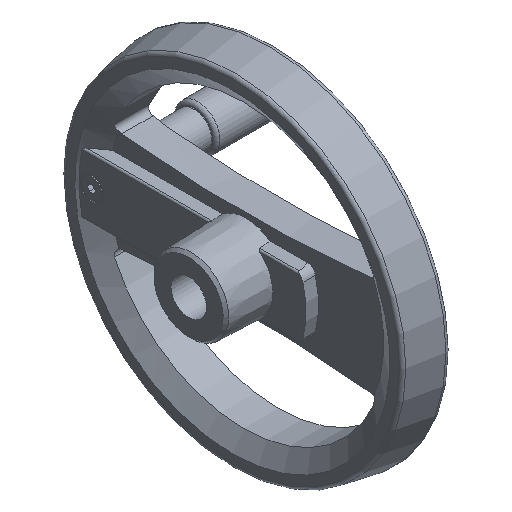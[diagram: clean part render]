
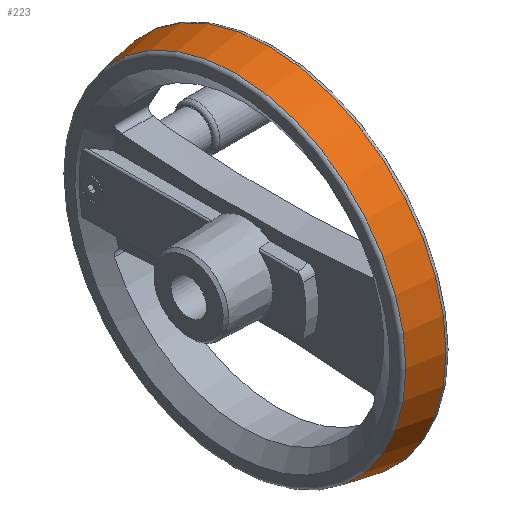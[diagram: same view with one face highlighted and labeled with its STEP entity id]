
A CAD part, isometric view. The second image highlights one B-rep face of the part: STEP entity #223.
In plain terms, the highlighted conical face has half-angle 9.986 degrees and reference radius 96.36 mm.
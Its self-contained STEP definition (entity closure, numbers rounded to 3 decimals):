
#223 = ADVANCED_FACE( '', ( #394, #395 ), #396, .T. );
#394 = FACE_OUTER_BOUND( '', #641, .T. );
#395 = FACE_BOUND( '', #642, .T. );
#396 = CONICAL_SURFACE( '', #643, 96.36, 0.174 );
#641 = EDGE_LOOP( '', ( #1162 ) );
#642 = EDGE_LOOP( '', ( #1163 ) );
#643 = AXIS2_PLACEMENT_3D( '', #1164, #1165, #1166 );
#1162 = ORIENTED_EDGE( '', *, *, #1667, .F. );
#1163 = ORIENTED_EDGE( '', *, *, #1668, .T. );
#1164 = CARTESIAN_POINT( '', ( 26.353, 0., 0. ) );
#1165 = DIRECTION( '', ( 1., 0., 0. ) );
#1166 = DIRECTION( '', ( 0., 0., -1. ) );
#1667 = EDGE_CURVE( '', #2003, #2003, #2004, .T. );
#1668 = EDGE_CURVE( '', #2005, #2005, #2006, .T. );
#2003 = VERTEX_POINT( '', #2825 );
#2004 = CIRCLE( '', #2826, 99.76 );
#2005 = VERTEX_POINT( '', #2827 );
#2006 = CIRCLE( '', #2828, 96.36 );
#2825 = CARTESIAN_POINT( '', ( 45.663, 0., -99.76 ) );
#2826 = AXIS2_PLACEMENT_3D( '', #3234, #3235, #3236 );
#2827 = CARTESIAN_POINT( '', ( 26.353, 0., -96.36 ) );
#2828 = AXIS2_PLACEMENT_3D( '', #3237, #3238, #3239 );
#3234 = CARTESIAN_POINT( '', ( 45.663, 0., 0. ) );
#3235 = DIRECTION( '', ( 1., 0., 0. ) );
#3236 = DIRECTION( '', ( 0., 0., -1. ) );
#3237 = CARTESIAN_POINT( '', ( 26.353, 0., 0. ) );
#3238 = DIRECTION( '', ( 1., 0., 0. ) );
#3239 = DIRECTION( '', ( 0., 0., -1. ) );
